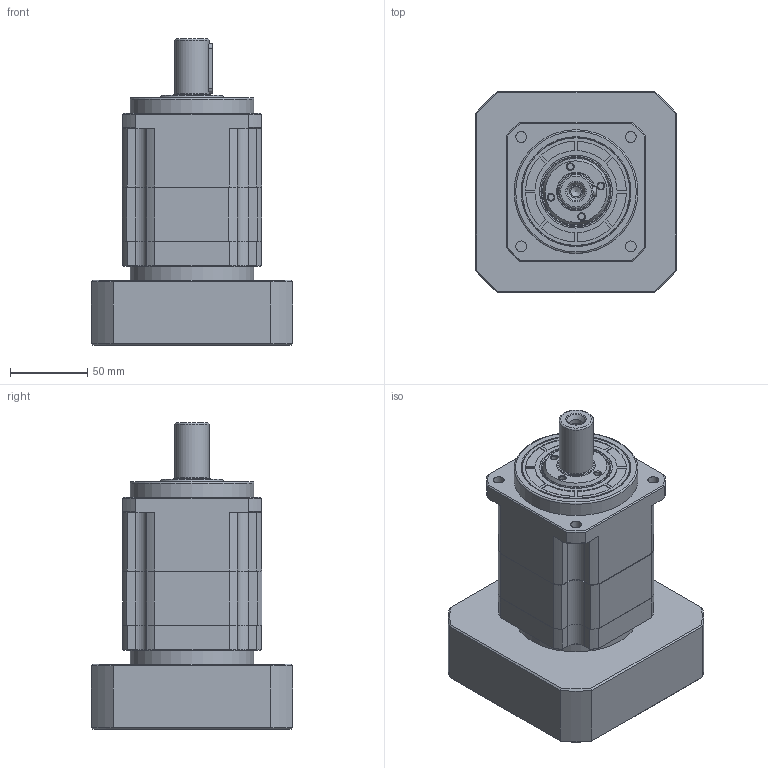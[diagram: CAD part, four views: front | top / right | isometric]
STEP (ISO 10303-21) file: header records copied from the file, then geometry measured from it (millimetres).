
FILE_DESCRIPTION(/* description */ (''),/* implementation_level */ '2;1');
FILE_NAME(/* name */ 'TB090-L2-22-110-145-M8-60.5-16.stp',/* time_stamp */ '2020-11-24T14:32:21+08:00',/* author */ (''),/* organization */ (''),/* preprocessor_version */ 'ST-DEVELOPER v16',/* originating_system */ 'SIEMENS PLM Software NX 10.0',/* authorisation */ '');
FILE_SCHEMA (('CONFIG_CONTROL_DESIGN'));
Length unit declared in the file: millimetre
Products named in the file (1): _model291
Bounding box: 130 x 130 x 197.85 mm (x, y, z)
Volume: 1202127.1 mm3; surface area: 179702.7 mm2
Topology: 7 solids, 8 shells, 472 faces, 1134 edges, 721 vertices
Faces by surface type: plane 200, cylinder 150, cone 104, torus 18
Full cylindrical faces by diameter (mm): 4 x4, 4.2 x10, 5.2 x1, 5.5 x10, 6.5 x1, 6.8 x5, 7 x4, 8.4 x1, 9 x6, 12.1 x1, 22 x3, 25 x1, 26.6 x2, 27.5 x2, 28 x4, 31 x2, 38 x1, 40 x1, 47.1 x1, 55 x1, 66 x1, 70 x2, 70.999 x1, 76 x1, 80 x3, 85 x1, 110 x1
Entity records: 12909 total; most frequent: CARTESIAN_POINT 2434, DIRECTION 2235, ORIENTED_EDGE 1886, EDGE_CURVE 943, AXIS2_PLACEMENT_3D 900, EDGE_LOOP 687, VERTEX_POINT 679, ADVANCED_FACE 472
